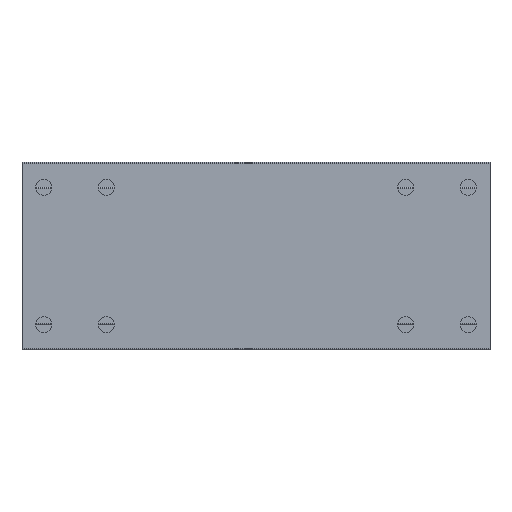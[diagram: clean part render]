
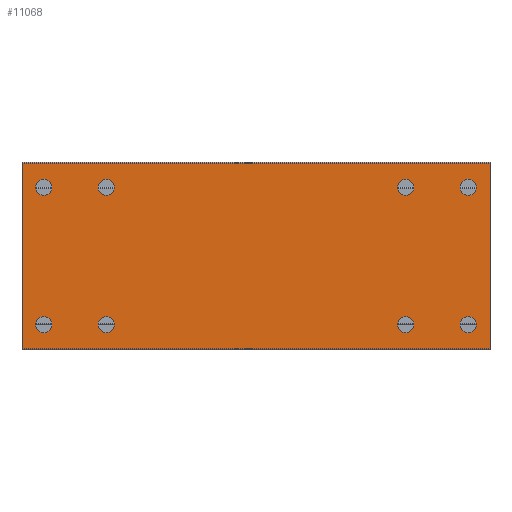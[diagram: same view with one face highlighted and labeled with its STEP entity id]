
A CAD part, front view. The second image highlights one B-rep face of the part: STEP entity #11068.
In plain terms, the highlighted planar face has unit normal (0, -1, 0).
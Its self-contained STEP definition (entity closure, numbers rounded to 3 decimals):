
#374=CIRCLE('',#11728,1.3);
#375=CIRCLE('',#11729,1.3);
#376=CIRCLE('',#11730,1.3);
#377=CIRCLE('',#11731,1.3);
#378=CIRCLE('',#11732,1.3);
#379=CIRCLE('',#11733,1.3);
#380=CIRCLE('',#11734,1.3);
#381=CIRCLE('',#11735,1.3);
#1122=ORIENTED_EDGE('',*,*,#4475,.F.);
#1123=ORIENTED_EDGE('',*,*,#4476,.F.);
#1124=ORIENTED_EDGE('',*,*,#4477,.F.);
#1125=ORIENTED_EDGE('',*,*,#4478,.F.);
#1126=ORIENTED_EDGE('',*,*,#4479,.T.);
#1127=ORIENTED_EDGE('',*,*,#4480,.F.);
#1128=ORIENTED_EDGE('',*,*,#4481,.F.);
#1129=ORIENTED_EDGE('',*,*,#4482,.F.);
#1130=ORIENTED_EDGE('',*,*,#4449,.T.);
#1131=ORIENTED_EDGE('',*,*,#4483,.F.);
#1132=ORIENTED_EDGE('',*,*,#4484,.F.);
#1133=ORIENTED_EDGE('',*,*,#4473,.T.);
#4449=EDGE_CURVE('',#6128,#6127,#7267,.T.);
#4473=EDGE_CURVE('',#6150,#6128,#7291,.T.);
#4475=EDGE_CURVE('',#6151,#6151,#374,.T.);
#4476=EDGE_CURVE('',#6152,#6152,#375,.T.);
#4477=EDGE_CURVE('',#6153,#6153,#376,.T.);
#4478=EDGE_CURVE('',#6154,#6154,#377,.T.);
#4479=EDGE_CURVE('',#6155,#6155,#378,.T.);
#4480=EDGE_CURVE('',#6156,#6156,#379,.T.);
#4481=EDGE_CURVE('',#6157,#6157,#380,.T.);
#4482=EDGE_CURVE('',#6158,#6158,#381,.T.);
#4483=EDGE_CURVE('',#6159,#6127,#7293,.T.);
#4484=EDGE_CURVE('',#6150,#6159,#7294,.T.);
#6127=VERTEX_POINT('',#16748);
#6128=VERTEX_POINT('',#16750);
#6150=VERTEX_POINT('',#16799);
#6151=VERTEX_POINT('',#16803);
#6152=VERTEX_POINT('',#16805);
#6153=VERTEX_POINT('',#16807);
#6154=VERTEX_POINT('',#16809);
#6155=VERTEX_POINT('',#16811);
#6156=VERTEX_POINT('',#16813);
#6157=VERTEX_POINT('',#16815);
#6158=VERTEX_POINT('',#16817);
#6159=VERTEX_POINT('',#16819);
#7267=LINE('',#16749,#8281);
#7291=LINE('',#16798,#8305);
#7293=LINE('',#16818,#8307);
#7294=LINE('',#16820,#8308);
#8281=VECTOR('',#13088,1000.);
#8305=VECTOR('',#13118,1000.);
#8307=VECTOR('',#13138,1000.);
#8308=VECTOR('',#13139,1000.);
#9251=EDGE_LOOP('',(#1122));
#9252=EDGE_LOOP('',(#1123));
#9253=EDGE_LOOP('',(#1124));
#9254=EDGE_LOOP('',(#1125));
#9255=EDGE_LOOP('',(#1126));
#9256=EDGE_LOOP('',(#1127));
#9257=EDGE_LOOP('',(#1128));
#9258=EDGE_LOOP('',(#1129));
#9259=EDGE_LOOP('',(#1130,#1131,#1132,#1133));
#10015=FACE_BOUND('',#9251,.T.);
#10016=FACE_BOUND('',#9252,.T.);
#10017=FACE_BOUND('',#9253,.T.);
#10018=FACE_BOUND('',#9254,.T.);
#10019=FACE_BOUND('',#9255,.T.);
#10020=FACE_BOUND('',#9256,.T.);
#10021=FACE_BOUND('',#9257,.T.);
#10022=FACE_BOUND('',#9258,.T.);
#10023=FACE_BOUND('',#9259,.T.);
#10779=PLANE('',#11727);
#11068=ADVANCED_FACE('',(#10015,#10016,#10017,#10018,#10019,#10020,#10021,
#10022,#10023),#10779,.F.);
#11727=AXIS2_PLACEMENT_3D('',#16801,#13120,#13121);
#11728=AXIS2_PLACEMENT_3D('',#16802,#13122,#13123);
#11729=AXIS2_PLACEMENT_3D('',#16804,#13124,#13125);
#11730=AXIS2_PLACEMENT_3D('',#16806,#13126,#13127);
#11731=AXIS2_PLACEMENT_3D('',#16808,#13128,#13129);
#11732=AXIS2_PLACEMENT_3D('',#16810,#13130,#13131);
#11733=AXIS2_PLACEMENT_3D('',#16812,#13132,#13133);
#11734=AXIS2_PLACEMENT_3D('',#16814,#13134,#13135);
#11735=AXIS2_PLACEMENT_3D('',#16816,#13136,#13137);
#13088=DIRECTION('',(0.,0.,-1.));
#13118=DIRECTION('',(-1.,0.,0.));
#13120=DIRECTION('',(0.,1.,0.));
#13121=DIRECTION('',(0.,0.,1.));
#13122=DIRECTION('',(0.,-1.,0.));
#13123=DIRECTION('',(0.,0.,-1.));
#13124=DIRECTION('',(0.,-1.,0.));
#13125=DIRECTION('',(0.,0.,-1.));
#13126=DIRECTION('',(0.,-1.,0.));
#13127=DIRECTION('',(0.,0.,-1.));
#13128=DIRECTION('',(0.,-1.,0.));
#13129=DIRECTION('',(0.,0.,-1.));
#13130=DIRECTION('',(0.,1.,0.));
#13131=DIRECTION('',(0.,0.,1.));
#13132=DIRECTION('',(0.,-1.,0.));
#13133=DIRECTION('',(0.,0.,-1.));
#13134=DIRECTION('',(0.,-1.,0.));
#13135=DIRECTION('',(0.,0.,-1.));
#13136=DIRECTION('',(0.,-1.,0.));
#13137=DIRECTION('',(0.,0.,-1.));
#13138=DIRECTION('',(-1.,0.,0.));
#13139=DIRECTION('',(0.,0.,-1.));
#16748=CARTESIAN_POINT('',(0.,0.,-14.85));
#16749=CARTESIAN_POINT('',(0.,0.,14.85));
#16750=CARTESIAN_POINT('',(0.,0.,14.85));
#16798=CARTESIAN_POINT('',(75.,0.,14.85));
#16799=CARTESIAN_POINT('',(75.,0.,14.85));
#16801=CARTESIAN_POINT('',(75.,0.,14.85));
#16802=CARTESIAN_POINT('',(61.5,0.,11.));
#16803=CARTESIAN_POINT('',(61.5,0.,9.7));
#16804=CARTESIAN_POINT('',(61.5,0.,-11.));
#16805=CARTESIAN_POINT('',(61.5,0.,-12.3));
#16806=CARTESIAN_POINT('',(13.5,0.,11.));
#16807=CARTESIAN_POINT('',(13.5,0.,9.7));
#16808=CARTESIAN_POINT('',(13.5,0.,-11.));
#16809=CARTESIAN_POINT('',(13.5,0.,-12.3));
#16810=CARTESIAN_POINT('',(71.5,0.,11.));
#16811=CARTESIAN_POINT('',(71.5,0.,12.3));
#16812=CARTESIAN_POINT('',(71.5,0.,-11.));
#16813=CARTESIAN_POINT('',(71.5,0.,-12.3));
#16814=CARTESIAN_POINT('',(3.5,0.,-11.));
#16815=CARTESIAN_POINT('',(3.5,0.,-12.3));
#16816=CARTESIAN_POINT('',(3.5,0.,11.));
#16817=CARTESIAN_POINT('',(3.5,0.,9.7));
#16818=CARTESIAN_POINT('',(75.,0.,-14.85));
#16819=CARTESIAN_POINT('',(75.,0.,-14.85));
#16820=CARTESIAN_POINT('',(75.,0.,14.85));
